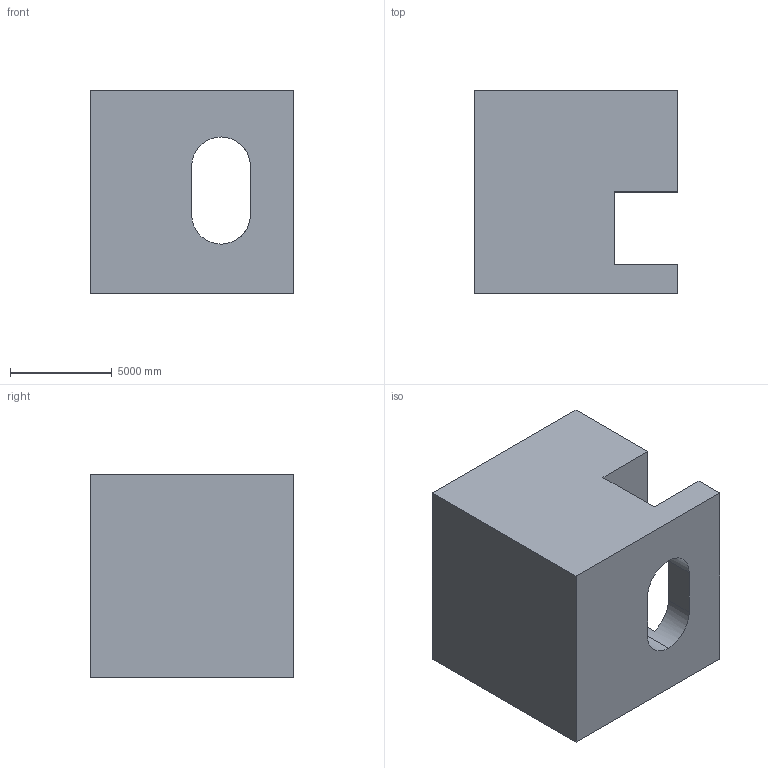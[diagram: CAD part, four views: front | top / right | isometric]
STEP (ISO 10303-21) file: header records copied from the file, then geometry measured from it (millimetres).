
FILE_DESCRIPTION (( 'STEP AP203' ), '1' );
FILE_NAME ('183.STEP', '2022-08-04T14:18:19', ( 'user' ), ( '' ), 'SwSTEP 2.0', 'SolidWorks 2021', '' );
FILE_SCHEMA (( 'CONFIG_CONTROL_DESIGN' ));
Length unit declared in the file: centimetre
Products named in the file (1): 183
Bounding box: 10000 x 10000 x 10000 mm (x, y, z)
Volume: 770176641964.2 mm3; surface area: 703394006.8 mm2
Topology: 1 solids, 1 shells, 17 faces, 51 edges, 34 vertices
Faces by surface type: plane 14, cylinder 3
Entity records: 660 total; most frequent: CARTESIAN_POINT 103, ORIENTED_EDGE 102, DIRECTION 97, EDGE_CURVE 51, LINE 41, VECTOR 41, VERTEX_POINT 34, AXIS2_PLACEMENT_3D 28
